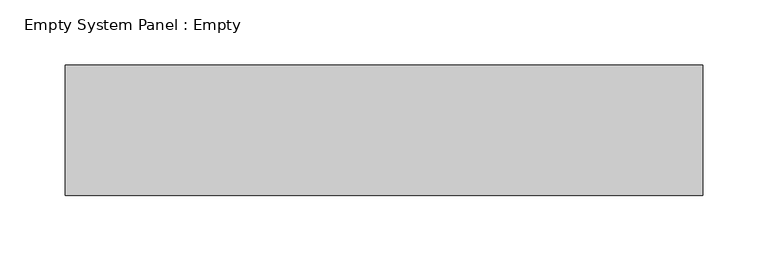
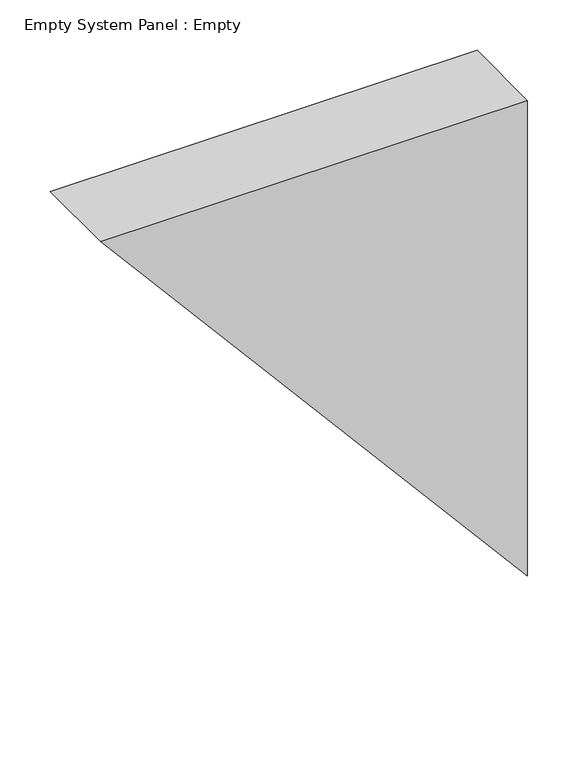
"""IFC4 building model written with IfcOpenShell, lengths in millimetres: plate geometry, Empty System Panel : Empty."""

from ifc_helpers import new_model, si_unit, frame, origin, place, context, project, spatial, polyline, outline, extrude, source, transform, mapped, element, save


def empty_system_panel_empty_66e80158(model_context):
    return source(origin(), model_context, "Body", "SweptSolid", [
        extrude(outline(polyline([(575.7931568, -244.158987), (0.0, 244.158987), (575.7931568, 244.158987), (575.7931568, -244.158987)])), frame((0.0, -50.0, 0.0), z_axis=(0.0, 1.0, 0.0), x_axis=(0.0, 0.0, 1.0)), (0.0, 0.0, 1.0), 100.0),
    ])


if __name__ == "__main__":
    model = new_model("IFC4")
    model_context = context("Model", 3, world=origin())
    ifc_project = project(units=[si_unit("LENGTHUNIT", "METRE", prefix="MILLI")], contexts=[model_context])
    site = spatial("IfcSite", under=ifc_project)
    building = spatial("IfcBuilding", under=site)
    placement = place(None, origin())
    empty_system_panel_empty_shape = empty_system_panel_empty_66e80158(model_context)
    element("IfcPlate", 1, ObjectType="Empty System Panel : Empty", at=placement, inside=building, context=model_context, shape_type="MappedRepresentation", body=[
        mapped(empty_system_panel_empty_shape, transform((0.0, 0.0, 0.0), x_axis=(1.0, 0.0, 0.0), y_axis=(0.0, 1.0, 0.0), z_axis=(0.0, 0.0, 1.0))),
    ])
    save(model, "model.ifc")
